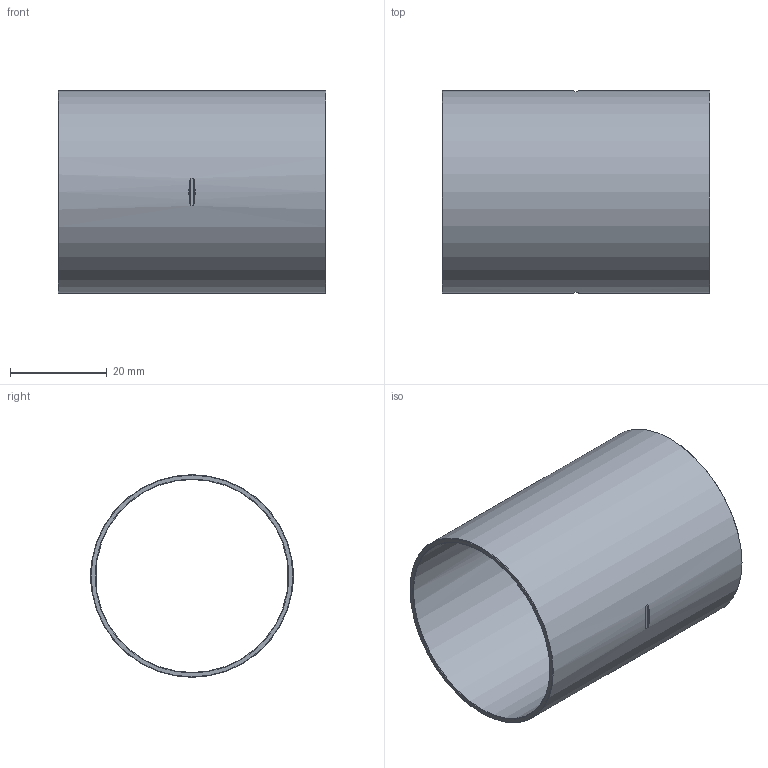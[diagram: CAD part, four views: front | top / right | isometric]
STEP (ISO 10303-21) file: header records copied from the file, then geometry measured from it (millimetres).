
FILE_DESCRIPTION((''),'2;1');
FILE_NAME('C:\brol\24\1527040.stp','2013-06-27T15:12:50',('vdvijverd'),(''),'Autodesk Inventor 2009','Autodesk Inventor 2009','');
FILE_SCHEMA(('AUTOMOTIVE_DESIGN { 1 0 10303 214 1 1 1 1 }'));
Length unit declared in the file: millimetre
Products named in the file (1): 1527040
Bounding box: 55.5 x 42 x 42 mm (x, y, z)
Volume: 7147.8 mm3; surface area: 14526.8 mm2
Topology: 1 solids, 1 shells, 36 faces, 96 edges, 64 vertices
Faces by surface type: bspline 14, cylinder 10, plane 8, cone 4
Full cylindrical faces by diameter (mm): 40 x1, 42 x1
Entity records: 1408 total; most frequent: CARTESIAN_POINT 597, ORIENTED_EDGE 176, DIRECTION 126, EDGE_CURVE 88, VERTEX_POINT 64, EDGE_LOOP 48, AXIS2_PLACEMENT_3D 47, FACE_OUTER_BOUND 36
